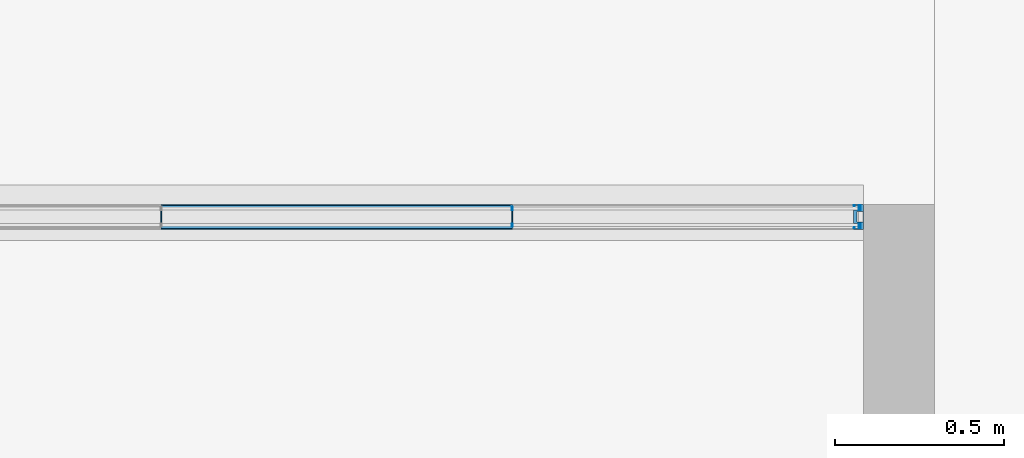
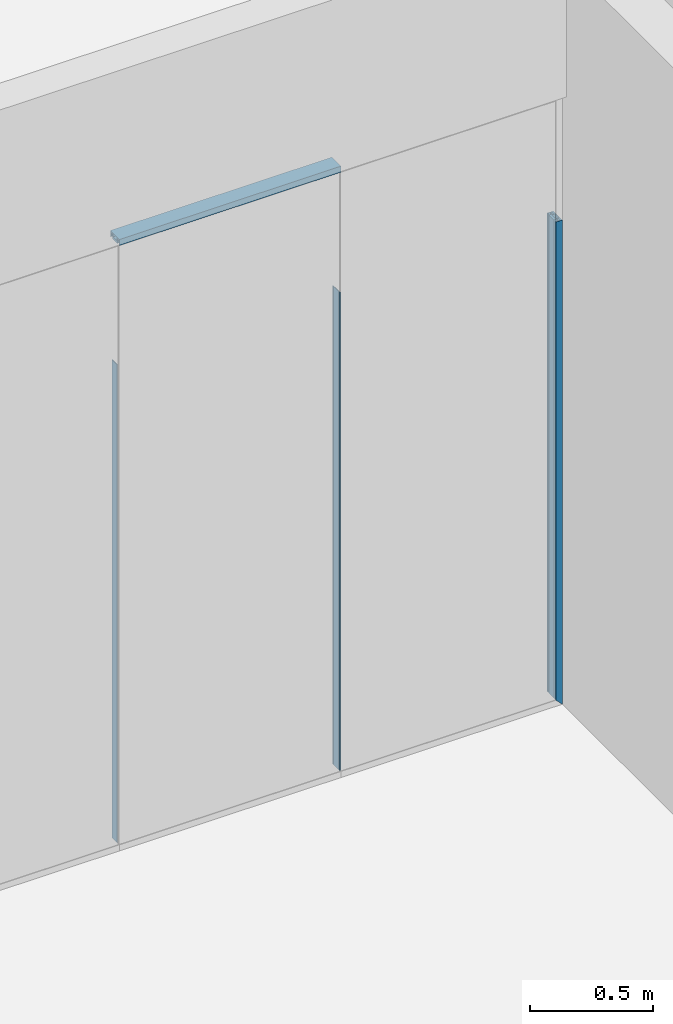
# One storey, part 82 of 387: 7 building element parts, 5 elements without a shape of their own.
"""IFC2X3 building model written with IfcOpenShell, lengths in millimetres."""

from ifc_helpers import new_model, entity, si_unit, converted_unit, derived_unit, money_unit, direction, frame, origin_with_axes, place, context, subcontext, project, spatial, faceted_brep, source, transform, mapped, material, type_object, element, aggregate, save


model = new_model("IFC2X3")

# Units and contexts
model_context = context("Model", 3, precision=0.01, world=origin_with_axes(), true_north=direction((0.0, 1.0)))
body_context = subcontext(model_context, "Body", "Model", "MODEL_VIEW")
ifc_project = project(units=[si_unit("LENGTHUNIT", "METRE", prefix="MILLI"), si_unit("AREAUNIT", "SQUARE_METRE"), si_unit("VOLUMEUNIT", "CUBIC_METRE"), converted_unit("PLANEANGLEUNIT", "DEGREE", entity("IfcPlaneAngleMeasure", 0.0174532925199), si_unit("PLANEANGLEUNIT", "RADIAN"), dimensions=[0, 0, 0, 0, 0, 0, 0]), si_unit("SOLIDANGLEUNIT", "STERADIAN"), money_unit("EUR"), converted_unit("TIMEUNIT", "Year", entity("IfcTimeMeasure", 31556926.0), si_unit("TIMEUNIT", "SECOND"), dimensions=[0, 0, 1, 0, 0, 0, 0]), si_unit("MASSUNIT", "GRAM", prefix="KILO"), si_unit("THERMODYNAMICTEMPERATUREUNIT", "DEGREE_CELSIUS"), si_unit("LUMINOUSINTENSITYUNIT", "LUMEN"), si_unit("ENERGYUNIT", "JOULE", prefix="MEGA"), derived_unit("THERMALCONDUCTANCEUNIT", [(si_unit("POWERUNIT", "WATT"), 1), (si_unit("LENGTHUNIT", "METRE"), -1), (si_unit("THERMODYNAMICTEMPERATUREUNIT", "KELVIN"), -1)]), derived_unit("SPECIFICHEATCAPACITYUNIT", [(si_unit("ENERGYUNIT", "JOULE"), 1), (si_unit("MASSUNIT", "GRAM", prefix="KILO"), -1), (si_unit("THERMODYNAMICTEMPERATUREUNIT", "KELVIN"), -1)]), derived_unit("MASSDENSITYUNIT", [(si_unit("MASSUNIT", "GRAM", prefix="KILO"), 1), (si_unit("VOLUMEUNIT", "CUBIC_METRE"), -1)])], contexts=[model_context])

# Site, building, storey
site_placement = place(None, origin_with_axes())
site = spatial("IfcSite", under=ifc_project, at=site_placement, Name="Puškini 31, Narva", CompositionType="ELEMENT")
building_placement = place(site_placement, origin_with_axes())
building = spatial("IfcBuilding", under=site, at=building_placement, Name="Narva Riigigümnaasium", CompositionType="ELEMENT")
storey_placement = place(building_placement, frame((0.0, 0.0, 2640.0), z_axis=(0.0, 0.0, 1.0), x_axis=(1.0, 0.0, 0.0)))
storey = spatial("IfcBuildingStorey", under=building, at=storey_placement, Name="2.korrus +2.64", CompositionType="ELEMENT", Elevation=2640.0)

# Curtain wall, members, building element parts
curtain_wall_type = type_object("IfcCurtainWallType", Name="Curtain Wall Type", PredefinedType="NOTDEFINED")
curtain_wall_placement = place(storey_placement, frame((41856.9999981, 173462.999993, -5.89838209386e-05), z_axis=(0.0, 0.0, 1.0), x_axis=(1.0, 0.0, 0.0)))
curtain_wall = element("IfcCurtainWall", 1, at=curtain_wall_placement, inside=storey, type_object=curtain_wall_type, Name="G-SKLF-26")
member_type_1 = type_object("IfcMemberType", Name="Siseklaasfassaad - Raam n2htamatu 3 x 29", PredefinedType="MULLION")
member_1_placement = place(curtain_wall_placement, frame((2595.0, -2.54374299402e-08, 0.0), z_axis=(0.0, 0.0, 1.0), x_axis=(-1.0, 0.0, 0.0)))
member_1 = element("IfcMember", 2, at=member_1_placement, type_object=member_type_1, Name="Frame-Siseklaasf-005", ObjectType="MULLION")
ifc_material_1 = material(Name="Klaas")
shared_shape_1 = source(origin_with_axes(), body_context, "Body", "Brep", [
    faceted_brep([(-1.5000138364, 20.0064497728, 30.0000193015), (1.4999861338, 20.0064497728, 30.0000193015), (1.4999861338, 20.0064497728, 2400.00012431), (-1.5000138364, 20.0064497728, 2400.00012431), (-1.5000138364, 29.0064496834, 30.0000193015), (1.4999861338, 29.0064496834, 30.0000193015), (1.4999861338, 29.0064496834, 2400.00012431), (-1.5000138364, 29.0064496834, 2400.00012431)], [[[0, 1, 2, 3]], [[1, 0, 4, 5]], [[1, 5, 6, 2]], [[2, 6, 7, 3]], [[4, 0, 3, 7]], [[5, 4, 7, 6]]]),
    faceted_brep([(1.4999861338, -28.9935503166, 30.0000193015), (1.4999861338, -19.993550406, 30.0000193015), (1.4999861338, -19.993550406, 2400.00012431), (1.4999861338, -28.9935503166, 2400.00012431), (-1.5000138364, -28.9935503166, 30.0000193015), (-1.5000138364, -19.993550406, 30.0000193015), (-1.5000138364, -19.993550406, 2400.00012431), (-1.5000138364, -28.9935503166, 2400.00012431)], [[[0, 1, 2, 3]], [[1, 0, 4, 5]], [[1, 5, 6, 2]], [[2, 6, 7, 3]], [[4, 0, 3, 7]], [[5, 4, 7, 6]]]),
])
building_element_part_1_placement = place(member_1_placement, origin_with_axes())
building_element_part_1 = element("IfcBuildingElementPart", 3, at=building_element_part_1_placement, material=ifc_material_1, Name="Klaas", context=body_context, shape_type="MappedRepresentation", body=[
    mapped(shared_shape_1, transform((0.0, 0.0, 0.0), x_axis=(-1.0, 0.0, 0.0), y_axis=(0.0, -1.0, 0.0), z_axis=(0.0, 0.0, 1.0))),
])
member_2_placement = place(curtain_wall_placement, frame((1557.0, -1.52624579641e-08, 0.0), z_axis=(0.0, 0.0, 1.0), x_axis=(-1.0, 0.0, 0.0)))
member_2 = element("IfcMember", 4, at=member_2_placement, type_object=member_type_1, Name="Frame-Siseklaasf-005", ObjectType="MULLION")
ifc_material_2 = material(Name="VKR-06_Õhkvahe")
shared_shape_2 = source(origin_with_axes(), body_context, "Body", "Brep", [
    faceted_brep([(1.4999861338, -19.9935503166, 30.0000193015), (1.4999861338, 20.0064496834, 30.0000193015), (1.4999861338, 20.0064496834, 2400.00012431), (1.4999861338, -19.9935503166, 2400.00012431), (-1.5000138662, -19.9935503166, 30.0000193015), (-1.5000138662, 20.0064496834, 30.0000193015), (-1.5000138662, 20.0064496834, 2400.00012431), (-1.5000138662, -19.9935503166, 2400.00012431)], [[[0, 1, 2, 3]], [[1, 0, 4, 5]], [[1, 5, 6, 2]], [[2, 6, 7, 3]], [[4, 0, 3, 7]], [[5, 4, 7, 6]]]),
])
building_element_part_2_placement = place(member_2_placement, origin_with_axes())
building_element_part_2 = element("IfcBuildingElementPart", 5, at=building_element_part_2_placement, material=ifc_material_2, Name="VKR-06_Õhkvahe", context=body_context, shape_type="MappedRepresentation", body=[
    mapped(shared_shape_2, transform((0.0, 0.0, 0.0), x_axis=(-1.0, 0.0, 0.0), y_axis=(0.0, -1.0, 0.0), z_axis=(0.0, 0.0, 1.0))),
])
aggregate(member_2, [building_element_part_2])
building_element_part_3_placement = place(member_1_placement, origin_with_axes())
building_element_part_3 = element("IfcBuildingElementPart", 6, at=building_element_part_3_placement, material=ifc_material_2, Name="VKR-06_Õhkvahe", context=body_context, shape_type="MappedRepresentation", body=[
    mapped(shared_shape_2, transform((0.0, 0.0, 0.0), x_axis=(-1.0, 0.0, 0.0), y_axis=(0.0, -1.0, 0.0), z_axis=(0.0, 0.0, 1.0))),
])
aggregate(member_1, [building_element_part_1, building_element_part_3])
member_type_2 = type_object("IfcMemberType", Name="30 x 37", PredefinedType="MULLION")
member_3_placement = place(curtain_wall_placement, frame((3633.00000535, -3.56408236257e-08, 0.0), z_axis=(0.0, 0.0, 1.0), x_axis=(-1.0, 0.0, 0.0)))
member_3 = element("IfcMember", 7, at=member_3_placement, type_object=member_type_2, Name="G-SKLF-32-raam", ObjectType="MULLION")
ifc_material_3 = material(Name="Klaasvill")
shared_shape_3 = source(origin_with_axes(), body_context, "Body", "Brep", [
    faceted_brep([(-13.8499999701, 20.000000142, 13.8499999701), (-7.49999990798, 20.000000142, 7.49999990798), (-7.49999990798, 20.000000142, 2400.00000477), (-13.8499999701, 20.000000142, 2400.00000477), (-13.8499999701, 34.0161444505, 13.8499999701), (-7.49999990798, 34.0161444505, 7.49999990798), (-7.49999990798, 34.0161444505, 2400.00000477), (-13.8499999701, 34.0161444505, 2400.00000477)], [[[0, 1, 2, 3]], [[1, 0, 4, 5]], [[1, 5, 6, 2]], [[2, 6, 7, 3]], [[4, 0, 3, 7]], [[5, 4, 7, 6]]]),
    faceted_brep([(-25.004489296, 32.0307503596, 25.004489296), (-24.987414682, 34.0161444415, 24.987414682), (-24.987414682, 34.0161444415, 2400.00000477), (-25.004489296, 32.0307503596, 2400.00000477), (-25.742237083, 31.2930025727, 25.742237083), (-26.7500193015, 31.0229681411, 26.7500193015), (-27.75780152, 31.2930025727, 27.75780152), (-28.4955493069, 32.0307503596, 28.4955493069), (-28.7655837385, 33.0385325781, 28.7655837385), (-28.5126239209, 34.0161444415, 28.5126239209), (-28.5126239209, 34.0161444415, 2400.00000477), (-28.7655837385, 33.0385325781, 2400.00000477), (-28.4955493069, 32.0307503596, 2400.00000477), (-27.75780152, 31.2930025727, 2400.00000477), (-26.7500193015, 31.0229681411, 2400.00000477), (-25.742237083, 31.2930025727, 2400.00000477)], [[[0, 1, 2, 3]], [[1, 0, 4, 5, 6, 7, 8, 9]], [[1, 9, 10, 2]], [[2, 10, 11, 12, 13, 14, 15, 3]], [[4, 0, 3, 15]], [[5, 4, 15, 14]], [[6, 5, 14, 13]], [[7, 6, 13, 12]], [[8, 7, 12, 11]], [[9, 8, 11, 10]]]),
    faceted_brep([(-7.49999990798, -34.0161445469, 7.49999990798), (-7.49999990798, -19.9999997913, 7.49999990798), (-7.49999990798, -19.9999997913, 2400.00000477), (-7.49999990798, -34.0161445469, 2400.00000477), (-13.8499999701, -34.0161445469, 13.8499999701), (-13.8499999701, -19.9999997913, 13.8499999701), (-13.8499999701, -19.9999997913, 2400.00000477), (-13.8499999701, -34.0161445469, 2400.00000477)], [[[0, 1, 2, 3]], [[1, 0, 4, 5]], [[1, 5, 6, 2]], [[2, 6, 7, 3]], [[4, 0, 3, 7]], [[5, 4, 7, 6]]]),
    faceted_brep([(-24.987414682, -34.0161444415, 24.987414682), (-25.004489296, -32.0307503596, 25.004489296), (-25.004489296, -32.0307503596, 2400.00000477), (-24.987414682, -34.0161444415, 2400.00000477), (-28.5126239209, -34.0161444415, 28.5126239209), (-28.7655837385, -33.0385325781, 28.7655837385), (-28.4955493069, -32.0307503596, 28.4955493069), (-27.75780152, -31.2930025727, 27.75780152), (-26.7500193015, -31.0229681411, 26.7500193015), (-25.742237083, -31.2930025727, 25.742237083), (-25.742237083, -31.2930025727, 2400.00000477), (-26.7500193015, -31.0229681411, 2400.00000477), (-27.75780152, -31.2930025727, 2400.00000477), (-28.4955493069, -32.0307503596, 2400.00000477), (-28.7655837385, -33.0385325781, 2400.00000477), (-28.5126239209, -34.0161444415, 2400.00000477)], [[[0, 1, 2, 3]], [[1, 0, 4, 5, 6, 7, 8, 9]], [[1, 9, 10, 2]], [[2, 10, 11, 12, 13, 14, 15, 3]], [[4, 0, 3, 15]], [[5, 4, 15, 14]], [[6, 5, 14, 13]], [[7, 6, 13, 12]], [[8, 7, 12, 11]], [[9, 8, 11, 10]]]),
])
building_element_part_4_placement = place(member_3_placement, origin_with_axes())
building_element_part_4 = element("IfcBuildingElementPart", 8, at=building_element_part_4_placement, material=ifc_material_3, Name="Klaasvill", context=body_context, shape_type="MappedRepresentation", body=[
    mapped(shared_shape_3, transform((0.0, 0.0, 0.0), x_axis=(-1.0, 0.0, 0.0), y_axis=(0.0, -1.0, 0.0), z_axis=(0.0, 0.0, 1.0))),
])
ifc_material_4 = material(Name="Teras RAL7012")
shared_shape_4 = source(origin_with_axes(), body_context, "Body", "Brep", [
    faceted_brep([(-29.5999996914, -17.0000000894, 29.5999996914), (0.0, -17.0000000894, 0.0), (0.0, -17.0000000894, 2400.00000477), (-29.5999996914, -17.0000000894, 2400.00000477), (-29.5999996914, 17.0000000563, 29.5999996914), (0.0, 17.0000000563, 0.0), (-1.9999999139, 15.0000001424, 1.9999999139), (-18.7999996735, 15.0000001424, 18.7999996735), (-18.7999996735, -15.0000001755, 18.7999996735), (-1.9999999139, -15.0000001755, 1.9999999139), (0.0, 17.0000000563, 2400.00000477), (-29.5999996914, 17.0000000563, 2400.00000477), (-1.9999999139, 15.0000001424, 2400.00000477), (-1.9999999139, -15.0000001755, 2400.00000477), (-18.7999996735, -15.0000001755, 2400.00000477), (-18.7999996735, 15.0000001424, 2400.00000477)], [[[0, 1, 2, 3]], [[1, 0, 4, 5], [6, 7, 8, 9]], [[1, 5, 10, 2]], [[2, 10, 11, 3], [12, 13, 14, 15]], [[4, 0, 3, 11]], [[5, 4, 11, 10]], [[7, 6, 12, 15]], [[8, 7, 15, 14]], [[9, 8, 14, 13]], [[6, 9, 13, 12]]]),
    faceted_brep([(-29.5999996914, 17.0000000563, 29.5999996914), (0.0, 17.0, 0.0), (0.0, 17.0, 2400.00000477), (-29.5999996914, 17.0000000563, 2400.00000477), (-30.0000193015, 17.0, 30.0000193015), (-30.0000193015, 20.0, 30.0000193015), (-13.8499999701, 20.000000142, 13.8499999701), (-7.49999999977, 20.0, 7.49999999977), (-7.49999999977, 34.0161444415, 7.49999999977), (-13.8499999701, 34.0161444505, 13.8499999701), (-24.987414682, 34.0161444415, 24.987414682), (-28.5126239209, 34.0161444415, 28.5126239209), (-30.0000193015, 34.0161444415, 30.0000193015), (-30.0000193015, 37.0, 30.0000193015), (0.0, 37.0, 0.0), (0.0, 37.0, 2400.00000477), (-30.0000193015, 37.0, 2400.00000477), (-30.0000193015, 34.0161444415, 2400.00000477), (-28.5126239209, 34.0161444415, 2400.00000477), (-24.987414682, 34.0161444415, 2400.00000477), (-13.8499999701, 34.0161444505, 2400.00000477), (-7.49999999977, 34.0161444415, 2400.00000477), (-7.49999999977, 20.0, 2400.00000477), (-13.8499999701, 20.000000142, 2400.00000477), (-30.0000193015, 20.0, 2400.00000477), (-30.0000193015, 17.0, 2400.00000477)], [[[0, 1, 2, 3]], [[1, 0, 4, 5, 6, 7, 8, 9, 10, 11, 12, 13, 14]], [[1, 14, 15, 2]], [[2, 15, 16, 17, 18, 19, 20, 21, 22, 23, 24, 25, 3]], [[4, 0, 3, 25]], [[5, 4, 25, 24]], [[6, 5, 24, 23]], [[7, 6, 23, 22]], [[8, 7, 22, 21]], [[9, 8, 21, 20]], [[10, 9, 20, 19]], [[11, 10, 19, 18]], [[12, 11, 18, 17]], [[13, 12, 17, 16]], [[14, 13, 16, 15]]]),
    faceted_brep([(0.0, -37.0, 0.0), (0.0, -17.0, 0.0), (0.0, -17.0, 2400.00000477), (0.0, -37.0, 2400.00000477), (-30.0000193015, -37.0, 30.0000193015), (-30.0000193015, -34.0161444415, 30.0000193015), (-28.5126239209, -34.0161444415, 28.5126239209), (-24.987414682, -34.0161444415, 24.987414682), (-13.8499999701, -34.0161445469, 13.8499999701), (-7.49999999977, -34.0161444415, 7.49999999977), (-7.49999999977, -20.0, 7.49999999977), (-13.8499999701, -19.9999997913, 13.8499999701), (-30.0000193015, -20.0, 30.0000193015), (-30.0000193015, -17.0, 30.0000193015), (-29.5999996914, -17.0000000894, 29.5999996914), (-29.5999996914, -17.0000000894, 2400.00000477), (-30.0000193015, -17.0, 2400.00000477), (-30.0000193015, -20.0, 2400.00000477), (-13.8499999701, -19.9999997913, 2400.00000477), (-7.49999999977, -20.0, 2400.00000477), (-7.49999999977, -34.0161444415, 2400.00000477), (-13.8499999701, -34.0161445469, 2400.00000477), (-24.987414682, -34.0161444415, 2400.00000477), (-28.5126239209, -34.0161444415, 2400.00000477), (-30.0000193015, -34.0161444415, 2400.00000477), (-30.0000193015, -37.0, 2400.00000477)], [[[0, 1, 2, 3]], [[1, 0, 4, 5, 6, 7, 8, 9, 10, 11, 12, 13, 14]], [[1, 14, 15, 2]], [[2, 15, 16, 17, 18, 19, 20, 21, 22, 23, 24, 25, 3]], [[4, 0, 3, 25]], [[5, 4, 25, 24]], [[6, 5, 24, 23]], [[7, 6, 23, 22]], [[8, 7, 22, 21]], [[9, 8, 21, 20]], [[10, 9, 20, 19]], [[11, 10, 19, 18]], [[12, 11, 18, 17]], [[13, 12, 17, 16]], [[14, 13, 16, 15]]]),
])
building_element_part_5_placement = place(member_3_placement, origin_with_axes())
building_element_part_5 = element("IfcBuildingElementPart", 9, at=building_element_part_5_placement, material=ifc_material_4, Name="Teras RAL7012", context=body_context, shape_type="MappedRepresentation", body=[
    mapped(shared_shape_4, transform((0.0, 0.0, 0.0), x_axis=(-1.0, 0.0, 0.0), y_axis=(0.0, -1.0, 0.0), z_axis=(0.0, 0.0, 1.0))),
])
aggregate(member_3, [building_element_part_4, building_element_part_5])
member_4_placement = place(curtain_wall_placement, frame((1557.0, -1.52624579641e-08, 3029.99999291), z_axis=(1.0, 0.0, 0.0), x_axis=(0.0, 0.0, 1.0)))
member_4 = element("IfcMember", 10, at=member_4_placement, type_object=member_type_2, Name="G-SKLF-35-raam", ObjectType="MULLION")
aggregate(curtain_wall, [member_2, member_3, member_1, member_4])
shared_shape_5 = source(origin_with_axes(), body_context, "Body", "Brep", [
    faceted_brep([(7.49999990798, 20.000000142, 0.0), (13.8499999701, 20.000000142, 0.0), (13.8499999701, 20.000000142, 1038.0), (7.49999990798, 20.000000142, 1038.0), (7.49999990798, 34.0161444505, 0.0), (13.8499999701, 34.0161444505, 0.0), (13.8499999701, 34.0161444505, 1038.0), (7.49999990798, 34.0161444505, 1038.0)], [[[0, 1, 2, 3]], [[0, 4, 5, 1]], [[1, 5, 6, 2]], [[3, 2, 6, 7]], [[4, 0, 3, 7]], [[5, 4, 7, 6]]]),
    faceted_brep([(24.987414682, 34.0161444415, 0.0), (25.004489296, 32.0307503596, 0.0), (25.004489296, 32.0307503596, 1038.0), (24.987414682, 34.0161444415, 1038.0), (28.5126239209, 34.0161444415, 0.0), (28.7655837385, 33.0385325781, 0.0), (28.4955493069, 32.0307503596, 0.0), (27.75780152, 31.2930025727, 0.0), (26.7500193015, 31.0229681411, 0.0), (25.742237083, 31.2930025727, 0.0), (25.742237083, 31.2930025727, 1038.0), (26.7500193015, 31.0229681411, 1038.0), (27.75780152, 31.2930025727, 1038.0), (28.4955493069, 32.0307503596, 1038.0), (28.7655837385, 33.0385325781, 1038.0), (28.5126239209, 34.0161444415, 1038.0)], [[[0, 1, 2, 3]], [[0, 4, 5, 6, 7, 8, 9, 1]], [[1, 9, 10, 2]], [[3, 2, 10, 11, 12, 13, 14, 15]], [[4, 0, 3, 15]], [[5, 4, 15, 14]], [[6, 5, 14, 13]], [[7, 6, 13, 12]], [[8, 7, 12, 11]], [[9, 8, 11, 10]]]),
    faceted_brep([(7.49999990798, -19.9999997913, 0.0), (7.49999990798, -34.0161445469, 0.0), (7.49999990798, -34.0161445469, 1038.0), (7.49999990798, -19.9999997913, 1038.0), (13.8499999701, -19.9999997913, 0.0), (13.8499999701, -34.0161445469, 0.0), (13.8499999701, -34.0161445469, 1038.0), (13.8499999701, -19.9999997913, 1038.0)], [[[0, 1, 2, 3]], [[0, 4, 5, 1]], [[1, 5, 6, 2]], [[3, 2, 6, 7]], [[4, 0, 3, 7]], [[5, 4, 7, 6]]]),
    faceted_brep([(25.004489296, -32.0307503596, 0.0), (24.987414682, -34.0161444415, 0.0), (24.987414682, -34.0161444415, 1038.0), (25.004489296, -32.0307503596, 1038.0), (25.742237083, -31.2930025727, 0.0), (26.7500193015, -31.0229681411, 0.0), (27.75780152, -31.2930025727, 0.0), (28.4955493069, -32.0307503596, 0.0), (28.7655837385, -33.0385325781, 0.0), (28.5126239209, -34.0161444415, 0.0), (28.5126239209, -34.0161444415, 1038.0), (28.7655837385, -33.0385325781, 1038.0), (28.4955493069, -32.0307503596, 1038.0), (27.75780152, -31.2930025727, 1038.0), (26.7500193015, -31.0229681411, 1038.0), (25.742237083, -31.2930025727, 1038.0)], [[[0, 1, 2, 3]], [[0, 4, 5, 6, 7, 8, 9, 1]], [[1, 9, 10, 2]], [[3, 2, 10, 11, 12, 13, 14, 15]], [[4, 0, 3, 15]], [[5, 4, 15, 14]], [[6, 5, 14, 13]], [[7, 6, 13, 12]], [[8, 7, 12, 11]], [[9, 8, 11, 10]]]),
])
building_element_part_6_placement = place(member_4_placement, origin_with_axes())
building_element_part_6 = element("IfcBuildingElementPart", 11, at=building_element_part_6_placement, material=ifc_material_3, Name="Klaasvill", context=body_context, shape_type="MappedRepresentation", body=[
    mapped(shared_shape_5, transform((0.0, 0.0, 0.0), x_axis=(-1.0, 0.0, 0.0), y_axis=(0.0, -1.0, 0.0), z_axis=(0.0, 0.0, 1.0))),
])
shared_shape_6 = source(origin_with_axes(), body_context, "Body", "Brep", [
    faceted_brep([(0.0, -17.0000000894, 0.0), (29.5999996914, -17.0000000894, 0.0), (29.5999996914, -17.0000000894, 1038.0), (0.0, -17.0000000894, 1038.0), (0.0, 17.0000000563, 0.0), (29.5999996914, 17.0000000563, 0.0), (1.9999999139, 15.0000001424, 0.0), (1.9999999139, -15.0000001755, 0.0), (18.7999996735, -15.0000001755, 0.0), (18.7999996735, 15.0000001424, 0.0), (29.5999996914, 17.0000000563, 1038.0), (0.0, 17.0000000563, 1038.0), (1.9999999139, 15.0000001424, 1038.0), (18.7999996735, 15.0000001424, 1038.0), (18.7999996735, -15.0000001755, 1038.0), (1.9999999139, -15.0000001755, 1038.0)], [[[0, 1, 2, 3]], [[0, 4, 5, 1], [6, 7, 8, 9]], [[1, 5, 10, 2]], [[3, 2, 10, 11], [12, 13, 14, 15]], [[4, 0, 3, 11]], [[5, 4, 11, 10]], [[7, 6, 12, 15]], [[8, 7, 15, 14]], [[9, 8, 14, 13]], [[6, 9, 13, 12]]]),
    faceted_brep([(0.0, 17.0, 0.0), (29.5999996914, 17.0000000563, 0.0), (29.5999996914, 17.0000000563, 1038.0), (0.0, 17.0, 1038.0), (0.0, 37.0, 0.0), (30.0000193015, 37.0, 0.0), (30.0000193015, 34.0161444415, 0.0), (28.5126239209, 34.0161444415, 0.0), (24.987414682, 34.0161444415, 0.0), (13.8499999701, 34.0161444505, 0.0), (7.49999999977, 34.0161444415, 0.0), (7.49999999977, 20.0, 0.0), (13.8499999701, 20.000000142, 0.0), (30.0000193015, 20.0, 0.0), (30.0000193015, 17.0, 0.0), (30.0000193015, 17.0, 1038.0), (30.0000193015, 20.0, 1038.0), (13.8499999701, 20.000000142, 1038.0), (7.49999999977, 20.0, 1038.0), (7.49999999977, 34.0161444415, 1038.0), (13.8499999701, 34.0161444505, 1038.0), (24.987414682, 34.0161444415, 1038.0), (28.5126239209, 34.0161444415, 1038.0), (30.0000193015, 34.0161444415, 1038.0), (30.0000193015, 37.0, 1038.0), (0.0, 37.0, 1038.0)], [[[0, 1, 2, 3]], [[0, 4, 5, 6, 7, 8, 9, 10, 11, 12, 13, 14, 1]], [[1, 14, 15, 2]], [[3, 2, 15, 16, 17, 18, 19, 20, 21, 22, 23, 24, 25]], [[4, 0, 3, 25]], [[5, 4, 25, 24]], [[6, 5, 24, 23]], [[7, 6, 23, 22]], [[8, 7, 22, 21]], [[9, 8, 21, 20]], [[10, 9, 20, 19]], [[11, 10, 19, 18]], [[12, 11, 18, 17]], [[13, 12, 17, 16]], [[14, 13, 16, 15]]]),
    faceted_brep([(0.0, -17.0, 0.0), (0.0, -37.0, 0.0), (0.0, -37.0, 1038.0), (0.0, -17.0, 1038.0), (29.5999996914, -17.0000000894, 0.0), (30.0000193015, -17.0, 0.0), (30.0000193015, -20.0, 0.0), (13.8499999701, -19.9999997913, 0.0), (7.49999999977, -20.0, 0.0), (7.49999999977, -34.0161444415, 0.0), (13.8499999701, -34.0161445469, 0.0), (24.987414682, -34.0161444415, 0.0), (28.5126239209, -34.0161444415, 0.0), (30.0000193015, -34.0161444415, 0.0), (30.0000193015, -37.0, 0.0), (30.0000193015, -37.0, 1038.0), (30.0000193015, -34.0161444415, 1038.0), (28.5126239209, -34.0161444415, 1038.0), (24.987414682, -34.0161444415, 1038.0), (13.8499999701, -34.0161445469, 1038.0), (7.49999999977, -34.0161444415, 1038.0), (7.49999999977, -20.0, 1038.0), (13.8499999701, -19.9999997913, 1038.0), (30.0000193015, -20.0, 1038.0), (30.0000193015, -17.0, 1038.0), (29.5999996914, -17.0000000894, 1038.0)], [[[0, 1, 2, 3]], [[0, 4, 5, 6, 7, 8, 9, 10, 11, 12, 13, 14, 1]], [[1, 14, 15, 2]], [[3, 2, 15, 16, 17, 18, 19, 20, 21, 22, 23, 24, 25]], [[4, 0, 3, 25]], [[5, 4, 25, 24]], [[6, 5, 24, 23]], [[7, 6, 23, 22]], [[8, 7, 22, 21]], [[9, 8, 21, 20]], [[10, 9, 20, 19]], [[11, 10, 19, 18]], [[12, 11, 18, 17]], [[13, 12, 17, 16]], [[14, 13, 16, 15]]]),
])
building_element_part_7_placement = place(member_4_placement, origin_with_axes())
building_element_part_7 = element("IfcBuildingElementPart", 12, at=building_element_part_7_placement, material=ifc_material_4, Name="Teras RAL7012", context=body_context, shape_type="MappedRepresentation", body=[
    mapped(shared_shape_6, transform((0.0, 0.0, 0.0), x_axis=(-1.0, 0.0, 0.0), y_axis=(0.0, -1.0, 0.0), z_axis=(0.0, 0.0, 1.0))),
])
aggregate(member_4, [building_element_part_6, building_element_part_7])

save(model, "model.ifc")
